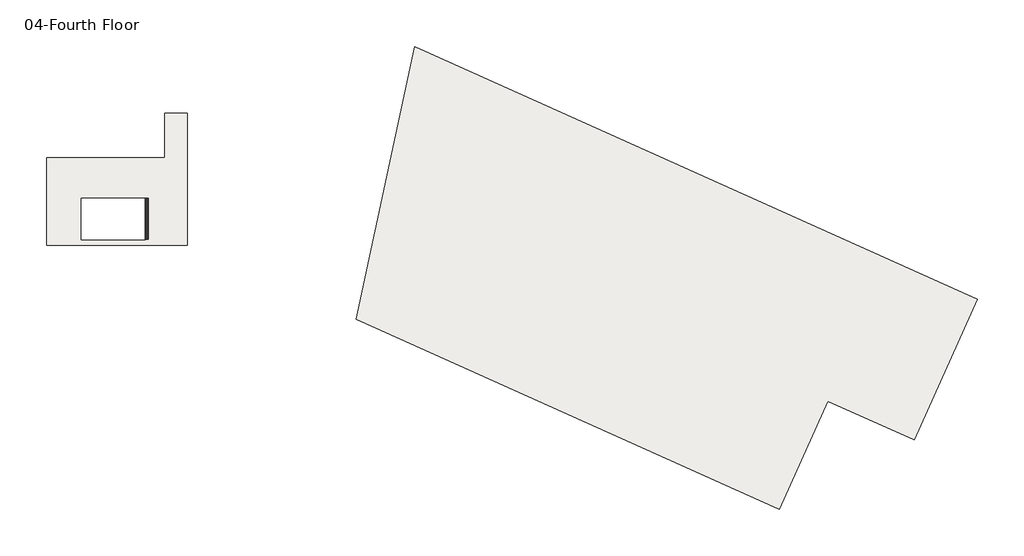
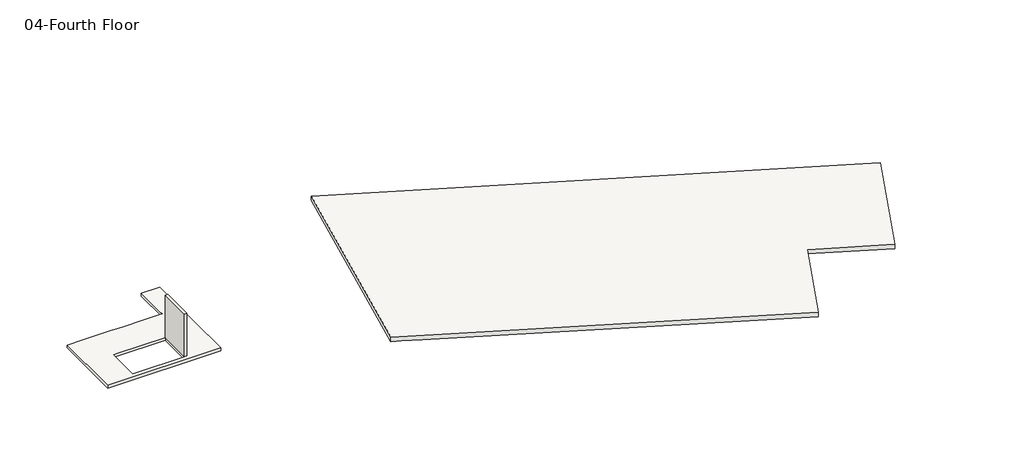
# One storey: 2 slabs, 1 wall.
"""IFC4 building model written with IfcOpenShell, lengths in millimetres."""

from ifc_helpers import new_model, si_unit, frame, origin, place, context, project, spatial, polyline, outline, extrude, faceted_brep, element, save

model = new_model("IFC4")

# Units and contexts
model_context = context("Model", 3, world=origin())
ifc_project = project(units=[si_unit("LENGTHUNIT", "METRE", prefix="MILLI")], contexts=[model_context])

# Site, building, storey
site = spatial("IfcSite", under=ifc_project)
building = spatial("IfcBuilding", under=site)
storey = spatial("IfcBuildingStorey", under=building, Name="04-Fourth Floor", Elevation=13411.2)

# Slabs
placement = place(None, origin())
element("IfcSlab", 1, ObjectType="RC Slab 12\"", at=placement, inside=storey, context=model_context, shape_type="Brep", body=[
    faceted_brep([(61413.0546278, -13159.9258537, 13106.4), (57962.8673107, -20840.7, 13106.4), (53236.2370668, -18717.5078049, 13106.4), (50577.0429205, -24637.3804878, 13106.4), (29168.1882864, -15020.5687805, 13106.4), (28045.956063, -14516.4644662, 13106.4), (27761.6071299, -14388.7355338, 13106.4), (27477.2581969, -14261.0066013, 13106.4), (30672.2153397, 648.7933987, 13106.4), (30956.5642728, 521.0644662, 13106.4), (31240.9132058, 393.3355338, 13106.4), (32422.724802, -137.5317073, 13106.4), (58354.6468229, -11786.0956098, 13106.4), (61135.0175546, -13035.0321951, 13106.4), (61413.0546278, -13159.9258537, 13411.2), (30672.2153397, 648.7933987, 13411.2), (27477.2581969, -14261.0066013, 13411.2), (50577.0429205, -24637.3804878, 13411.2), (53236.2370668, -18717.5078049, 13411.2), (57962.8673107, -20840.7, 13411.2)], [[[0, 1, 2, 3, 4, 5, 6, 7, 8, 9, 10, 11, 12, 13]], [[14, 15, 16, 17, 18, 19]], [[1, 0, 14, 19]], [[2, 1, 19, 18]], [[3, 2, 18, 17]], [[7, 6, 5, 4, 3, 17, 16]], [[8, 7, 16, 15]], [[0, 13, 12, 11, 10, 9, 8, 15, 14]]]),
])
element("IfcSlab", 2, ObjectType="RC Slab 8\"", at=placement, inside=storey, context=model_context, shape_type="Brep", body=[
    faceted_brep([(18249.9, -2984.5, 13208.0), (18249.9, -3289.3, 13208.0), (18249.9, -9893.3, 13208.0), (18249.9, -10198.1, 13208.0), (10553.7, -10198.1, 13208.0), (10553.7, -9893.3, 13208.0), (10553.7, -5422.9, 13208.0), (10858.5, -5422.9, 13208.0), (17005.3, -5422.9, 13208.0), (17005.3, -5168.9, 13208.0), (17005.3, -3289.3, 13208.0), (17005.3, -2984.5, 13208.0), (15951.2, -7633.3081651, 13208.0), (12446.0, -7633.3081651, 13208.0), (12446.0, -9893.3, 13208.0), (15951.2, -9893.3, 13208.0), (18249.9, -10198.1, 13411.2), (18249.9, -9893.3, 13411.2), (18249.9, -7378.7, 13411.2), (18249.9, -5422.9, 13411.2), (18249.9, -3289.3, 13411.2), (18249.9, -2984.5, 13411.2), (17005.3, -2984.5, 13411.2), (17005.3, -3289.3, 13411.2), (17005.3, -5168.9, 13411.2), (17005.3, -5422.9, 13411.2), (16522.7, -5422.9, 13411.2), (15608.3, -5422.9, 13411.2), (14389.1, -5422.9, 13411.2), (13474.7, -5422.9, 13411.2), (12242.8, -5422.9, 13411.2), (11328.4, -5422.9, 13411.2), (10858.5, -5422.9, 13411.2), (10553.7, -5422.9, 13411.2), (10553.7, -9893.3, 13411.2), (10553.7, -10198.1, 13411.2), (12446.0, -7633.3081651, 13411.2), (12731.75, -7633.3081651, 13411.2), (15951.2, -7633.3081651, 13411.2), (15951.2, -9893.3, 13411.2), (12446.0, -9893.3, 13411.2), (12446.0, -8700.1081651, 13411.2), (12446.0, -7633.3081651, 13247.6056471)], [[[0, 1, 2, 3, 4, 5, 6, 7, 8, 9, 10, 11], [12, 13, 14, 15]], [[16, 17, 18, 19, 20, 21, 22, 23, 24, 25, 26, 27, 28, 29, 30, 31, 32, 33, 34, 35], [36, 37, 38, 39, 40, 41]], [[3, 2, 1, 0, 21, 20, 19, 18, 17, 16]], [[4, 3, 16, 35]], [[4, 35, 34, 33, 6, 5]], [[21, 0, 11, 22]], [[25, 8, 7, 6, 33, 32, 31, 30, 29, 28, 27, 26]], [[8, 25, 24, 23, 22, 11, 10, 9]], [[12, 38, 37, 36, 42, 13]], [[13, 42, 36, 41, 40, 14]], [[14, 40, 39, 15]], [[38, 12, 15, 39]]]),
])

# Wall
element("IfcWall", 3, ObjectType="6\" Blockwork with render", at=placement, inside=storey, context=model_context, shape_type="SweptSolid", body=[
    extrude(outline(polyline([(16103.6, -7632.7), (16103.6, -9893.3), (15951.2, -9893.3), (15951.2, -7632.7), (16103.6, -7632.7)])), frame((0.0, 0.0, 13411.2), z_axis=(0.0, 0.0, 1.0), x_axis=(1.0, 0.0, 0.0)), (0.0, 0.0, 1.0), 3048.0),
])

save(model, "model.ifc")
